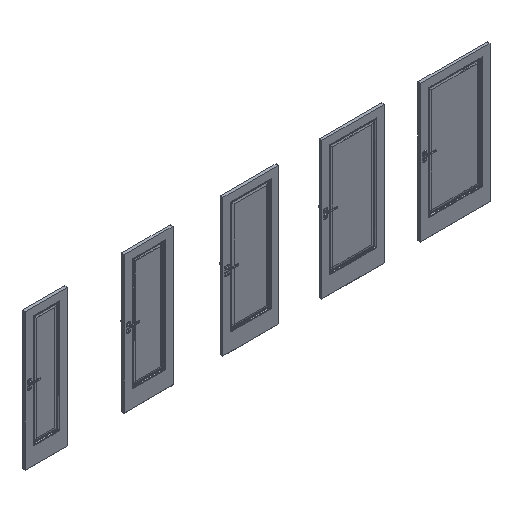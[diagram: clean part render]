
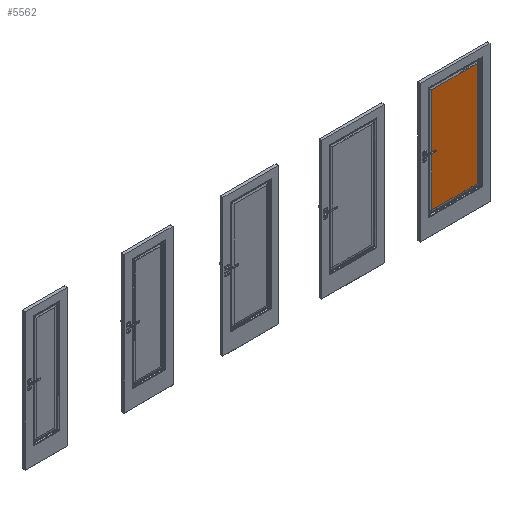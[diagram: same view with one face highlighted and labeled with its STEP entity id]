
A CAD part, isometric view. The second image highlights one B-rep face of the part: STEP entity #5562.
In plain terms, the highlighted planar face has unit normal (0, -1, 0).
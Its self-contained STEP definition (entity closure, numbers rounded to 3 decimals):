
#3787=FACE_OUTER_BOUND('',#9239,.T.);
#5562=ADVANCED_FACE('',(#3787),#6735,.F.);
#6735=PLANE('',#31939);
#9239=EDGE_LOOP('',(#16215,#16216,#16217,#16218));
#16215=ORIENTED_EDGE('',*,*,#24451,.T.);
#16216=ORIENTED_EDGE('',*,*,#24458,.F.);
#16217=ORIENTED_EDGE('',*,*,#24455,.T.);
#16218=ORIENTED_EDGE('',*,*,#24457,.T.);
#20539=VERTEX_POINT('',#72151);
#20540=VERTEX_POINT('',#72152);
#20541=VERTEX_POINT('',#72157);
#20542=VERTEX_POINT('',#72159);
#24451=EDGE_CURVE('',#20539,#20540,#27453,.T.);
#24455=EDGE_CURVE('',#20542,#20541,#27457,.T.);
#24457=EDGE_CURVE('',#20541,#20539,#27459,.T.);
#24458=EDGE_CURVE('',#20542,#20540,#27460,.T.);
#27453=LINE('',#72150,#29941);
#27457=LINE('',#72158,#29945);
#27459=LINE('',#72162,#29947);
#27460=LINE('',#72164,#29948);
#29941=VECTOR('',#37209,1.);
#29945=VECTOR('',#37215,1.);
#29947=VECTOR('',#37219,1.);
#29948=VECTOR('',#37222,1.);
#31939=AXIS2_PLACEMENT_3D('',#72165,#37223,#37224);
#37209=DIRECTION('',(1.,0.,0.));
#37215=DIRECTION('',(-1.,0.,0.));
#37219=DIRECTION('',(0.,0.,-1.));
#37222=DIRECTION('',(0.,0.,-1.));
#37223=DIRECTION('',(0.,1.,0.));
#37224=DIRECTION('',(0.,0.,1.));
#72150=CARTESIAN_POINT('',(5665.192,-27.85,313.683));
#72151=CARTESIAN_POINT('',(5665.183,-27.85,313.683));
#72152=CARTESIAN_POINT('',(6334.817,-27.85,313.683));
#72157=CARTESIAN_POINT('',(5665.183,-27.85,1842.317));
#72158=CARTESIAN_POINT('',(5665.192,-27.85,1842.317));
#72159=CARTESIAN_POINT('',(6334.817,-27.85,1842.317));
#72162=CARTESIAN_POINT('',(5665.183,-27.85,1893.));
#72164=CARTESIAN_POINT('',(6334.817,-27.85,1893.));
#72165=CARTESIAN_POINT('',(5665.192,-27.85,1893.));
